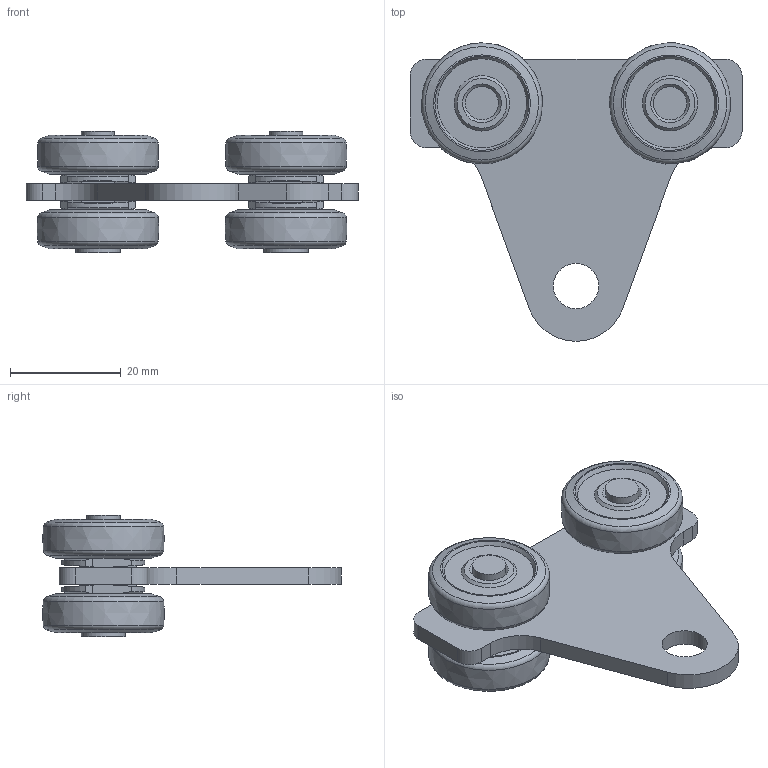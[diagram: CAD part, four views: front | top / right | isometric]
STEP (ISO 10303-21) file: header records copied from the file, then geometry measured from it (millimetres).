
FILE_DESCRIPTION(/* description */ ('Brennteil'),/* implementation_level */ '2;1');
FILE_NAME(/* name */ 'Q:\sge-ma\Produktmanagement-STB\STB\Workspace\stp\010336831.stp',/* time_stamp */ '2016-07-14T10:34:47+02:00',/* author */ ('avschreier'),/* organization */ (''),/* preprocessor_version */ 'ST-DEVELOPER v16.1',/* originating_system */ 'Autodesk Inventor 2016',/* authorisation */ '');
FILE_SCHEMA (('AUTOMOTIVE_DESIGN { 1 0 10303 214 3 1 1 }'));
Length unit declared in the file: millimetre
Products named in the file (5): 000302095; 000303234; 336290000; 000304010; 010336831
Assembly tree (11 placements, depth 2):
  010336831
    000302095
    000303234  x4
    336290000  x4
    000304010  x2
Bounding box: 60 x 54 x 22 mm (x, y, z)
Volume: 15505.7 mm3; surface area: 11630.1 mm2
Topology: 11 solids, 11 shells, 169 faces, 382 edges, 249 vertices
Faces by surface type: plane 89, cone 36, cylinder 30, torus 10, bspline 4
Full cylindrical faces by diameter (mm): 6 x6, 6.1 x4, 8 x2, 8.2 x1
Entity records: 1956 total; most frequent: CARTESIAN_POINT 345, DIRECTION 342, ORIENTED_EDGE 264, AXIS2_PLACEMENT_3D 136, EDGE_CURVE 132, VERTEX_POINT 97, EDGE_LOOP 95, LINE 70
